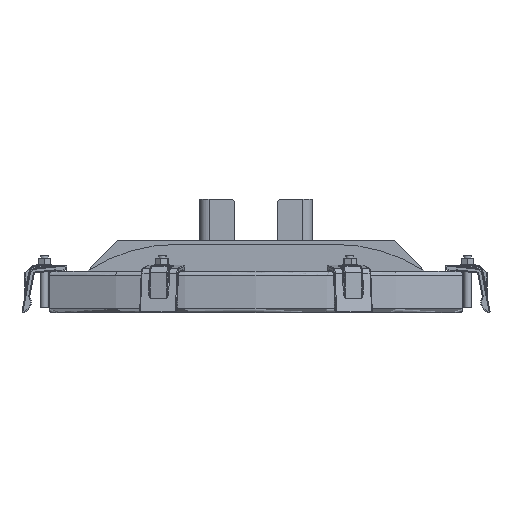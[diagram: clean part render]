
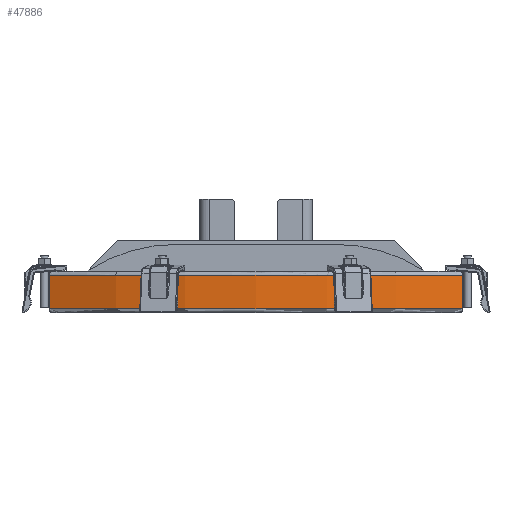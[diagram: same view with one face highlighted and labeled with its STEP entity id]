
A CAD part, front view. The second image highlights one B-rep face of the part: STEP entity #47886.
In plain terms, the highlighted cylindrical face has radius 492 mm (diameter 984 mm), a partial arc.
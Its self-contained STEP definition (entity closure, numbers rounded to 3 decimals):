
#3188 = EDGE_CURVE ( 'NONE', #15295, #13328, #41955, .T. ) ;
#3243 = VERTEX_POINT ( 'NONE', #6153 ) ;
#6153 = CARTESIAN_POINT ( 'NONE',  ( -220.375, 40.115, 40. ) ) ;
#10111 = EDGE_LOOP ( 'NONE', ( #14288, #25403, #62436, #38710 ) ) ;
#10619 = AXIS2_PLACEMENT_3D ( 'NONE', #19953, #36704, #64505 ) ;
#11198 = DIRECTION ( 'NONE',  ( -1., 0., 0. ) ) ;
#13328 = VERTEX_POINT ( 'NONE', #14661 ) ;
#14288 = ORIENTED_EDGE ( 'NONE', *, *, #40291, .F. ) ;
#14661 = CARTESIAN_POINT ( 'NONE',  ( -220.375, 40.115, 4. ) ) ;
#15295 = VERTEX_POINT ( 'NONE', #22695 ) ;
#16557 = FACE_OUTER_BOUND ( 'NONE', #10111, .T. ) ;
#16904 = DIRECTION ( 'NONE',  ( -1., 0., 0. ) ) ;
#19953 = CARTESIAN_POINT ( 'NONE',  ( 0., 480., 4. ) ) ;
#20931 = CARTESIAN_POINT ( 'NONE',  ( 220.375, 40.115, 40. ) ) ;
#21302 = DIRECTION ( 'NONE',  ( 0., 0., -1. ) ) ;
#22695 = CARTESIAN_POINT ( 'NONE',  ( 220.375, 40.115, 4. ) ) ;
#25403 = ORIENTED_EDGE ( 'NONE', *, *, #48519, .T. ) ;
#26734 = CIRCLE ( 'NONE', #29070, 492. ) ;
#29070 = AXIS2_PLACEMENT_3D ( 'NONE', #50913, #44362, #11198 ) ;
#32963 = CARTESIAN_POINT ( 'NONE',  ( 0., 480., 0. ) ) ;
#33518 = AXIS2_PLACEMENT_3D ( 'NONE', #32963, #71710, #16904 ) ;
#34506 = CARTESIAN_POINT ( 'NONE',  ( 220.375, 40.115, 40. ) ) ;
#35715 = EDGE_CURVE ( 'NONE', #3243, #13328, #64229, .T. ) ;
#36704 = DIRECTION ( 'NONE',  ( 0., 0., -1. ) ) ;
#36810 = DIRECTION ( 'NONE',  ( 0., 0., -1. ) ) ;
#38710 = ORIENTED_EDGE ( 'NONE', *, *, #3188, .F. ) ;
#40127 = VECTOR ( 'NONE', #21302, 1000. ) ;
#40291 = EDGE_CURVE ( 'NONE', #70653, #15295, #65512, .T. ) ;
#41955 = CIRCLE ( 'NONE', #10619, 492. ) ;
#44362 = DIRECTION ( 'NONE',  ( 0., 0., -1. ) ) ;
#47821 = CARTESIAN_POINT ( 'NONE',  ( -220.375, 40.115, 40. ) ) ;
#47886 = ADVANCED_FACE ( 'NONE', ( #16557 ), #66584, .T. ) ;
#48519 = EDGE_CURVE ( 'NONE', #70653, #3243, #26734, .T. ) ;
#50913 = CARTESIAN_POINT ( 'NONE',  ( 0., 480., 40. ) ) ;
#62436 = ORIENTED_EDGE ( 'NONE', *, *, #35715, .T. ) ;
#64229 = LINE ( 'NONE', #47821, #69795 ) ;
#64505 = DIRECTION ( 'NONE',  ( -1., 0., 0. ) ) ;
#65512 = LINE ( 'NONE', #20931, #40127 ) ;
#66584 = CYLINDRICAL_SURFACE ( 'NONE', #33518, 492. ) ;
#69795 = VECTOR ( 'NONE', #36810, 1000. ) ;
#70653 = VERTEX_POINT ( 'NONE', #34506 ) ;
#71710 = DIRECTION ( 'NONE',  ( 0., 0., -1. ) ) ;
